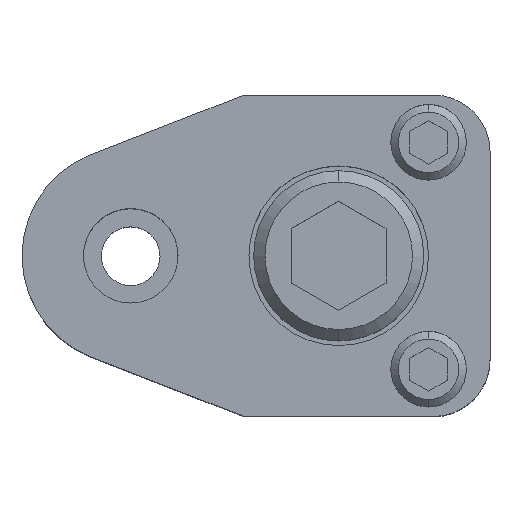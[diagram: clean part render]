
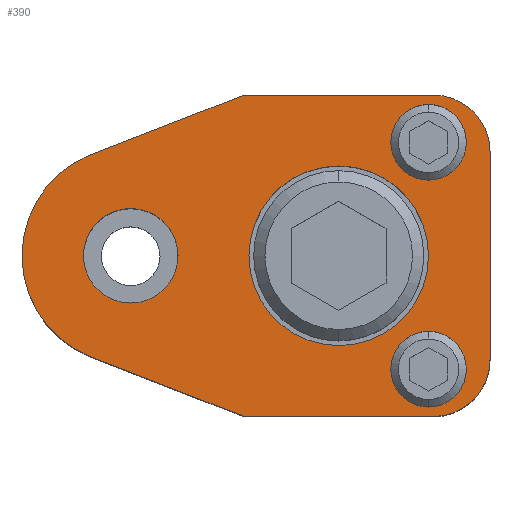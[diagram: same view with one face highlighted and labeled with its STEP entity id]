
A CAD part, top view. The second image highlights one B-rep face of the part: STEP entity #390.
In plain terms, the highlighted planar face has unit normal (0, 0, 1).
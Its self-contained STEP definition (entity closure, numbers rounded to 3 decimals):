
#192=FACE_BOUND('',#693,.T.);
#193=FACE_BOUND('',#694,.T.);
#194=FACE_BOUND('',#695,.T.);
#195=FACE_BOUND('',#696,.T.);
#196=FACE_BOUND('',#697,.T.);
#243=CIRCLE('',#2256,6.);
#246=CIRCLE('',#2262,6.);
#251=CIRCLE('',#2270,9.5);
#253=CIRCLE('',#2273,9.5);
#255=CIRCLE('',#2277,11.5);
#256=CIRCLE('',#2278,4.);
#257=CIRCLE('',#2279,4.);
#258=CIRCLE('',#2280,4.);
#259=CIRCLE('',#2281,4.);
#260=CIRCLE('',#2282,5.);
#261=CIRCLE('',#2283,5.);
#390=ADVANCED_FACE('',(#192,#193,#194,#195,#196),#501,.T.);
#501=PLANE('',#2284);
#693=EDGE_LOOP('',(#973,#974,#975,#976,#977,#978,#979,#980));
#694=EDGE_LOOP('',(#981,#982));
#695=EDGE_LOOP('',(#983,#984));
#696=EDGE_LOOP('',(#985,#986));
#697=EDGE_LOOP('',(#987,#988));
#973=ORIENTED_EDGE('',*,*,#1647,.T.);
#974=ORIENTED_EDGE('',*,*,#1651,.T.);
#975=ORIENTED_EDGE('',*,*,#1654,.T.);
#976=ORIENTED_EDGE('',*,*,#1674,.T.);
#977=ORIENTED_EDGE('',*,*,#1675,.T.);
#978=ORIENTED_EDGE('',*,*,#1676,.T.);
#979=ORIENTED_EDGE('',*,*,#1657,.T.);
#980=ORIENTED_EDGE('',*,*,#1661,.T.);
#981=ORIENTED_EDGE('',*,*,#1677,.F.);
#982=ORIENTED_EDGE('',*,*,#1678,.F.);
#983=ORIENTED_EDGE('',*,*,#1679,.F.);
#984=ORIENTED_EDGE('',*,*,#1680,.F.);
#985=ORIENTED_EDGE('',*,*,#1672,.F.);
#986=ORIENTED_EDGE('',*,*,#1668,.F.);
#987=ORIENTED_EDGE('',*,*,#1681,.T.);
#988=ORIENTED_EDGE('',*,*,#1682,.T.);
#1434=VERTEX_POINT('',#3270);
#1435=VERTEX_POINT('',#3272);
#1438=VERTEX_POINT('',#3279);
#1440=VERTEX_POINT('',#3285);
#1442=VERTEX_POINT('',#3291);
#1443=VERTEX_POINT('',#3293);
#1449=VERTEX_POINT('',#3314);
#1450=VERTEX_POINT('',#3315);
#1453=VERTEX_POINT('',#3327);
#1454=VERTEX_POINT('',#3329);
#1455=VERTEX_POINT('',#3332);
#1456=VERTEX_POINT('',#3333);
#1457=VERTEX_POINT('',#3336);
#1458=VERTEX_POINT('',#3337);
#1459=VERTEX_POINT('',#3340);
#1460=VERTEX_POINT('',#3341);
#1647=EDGE_CURVE('',#1435,#1434,#1925,.T.);
#1651=EDGE_CURVE('',#1434,#1438,#243,.T.);
#1654=EDGE_CURVE('',#1438,#1440,#1930,.T.);
#1657=EDGE_CURVE('',#1443,#1442,#1933,.T.);
#1661=EDGE_CURVE('',#1442,#1435,#246,.T.);
#1668=EDGE_CURVE('',#1449,#1450,#251,.T.);
#1672=EDGE_CURVE('',#1450,#1449,#253,.T.);
#1674=EDGE_CURVE('',#1440,#1453,#1940,.T.);
#1675=EDGE_CURVE('',#1453,#1454,#255,.T.);
#1676=EDGE_CURVE('',#1454,#1443,#1941,.T.);
#1677=EDGE_CURVE('',#1455,#1456,#256,.T.);
#1678=EDGE_CURVE('',#1456,#1455,#257,.T.);
#1679=EDGE_CURVE('',#1457,#1458,#258,.T.);
#1680=EDGE_CURVE('',#1458,#1457,#259,.T.);
#1681=EDGE_CURVE('',#1459,#1460,#260,.T.);
#1682=EDGE_CURVE('',#1460,#1459,#261,.T.);
#1925=LINE('',#3271,#2091);
#1930=LINE('',#3286,#2096);
#1933=LINE('',#3292,#2099);
#1940=LINE('',#3326,#2106);
#1941=LINE('',#3330,#2107);
#2091=VECTOR('',#2604,1.);
#2096=VECTOR('',#2617,1.);
#2099=VECTOR('',#2622,1.);
#2106=VECTOR('',#2663,1.);
#2107=VECTOR('',#2666,1.);
#2256=AXIS2_PLACEMENT_3D('',#3280,#2610,#2611);
#2262=AXIS2_PLACEMENT_3D('',#3299,#2629,#2630);
#2270=AXIS2_PLACEMENT_3D('',#3313,#2647,#2648);
#2273=AXIS2_PLACEMENT_3D('',#3322,#2655,#2656);
#2277=AXIS2_PLACEMENT_3D('',#3328,#2664,#2665);
#2278=AXIS2_PLACEMENT_3D('',#3331,#2667,#2668);
#2279=AXIS2_PLACEMENT_3D('',#3334,#2669,#2670);
#2280=AXIS2_PLACEMENT_3D('',#3335,#2671,#2672);
#2281=AXIS2_PLACEMENT_3D('',#3338,#2673,#2674);
#2282=AXIS2_PLACEMENT_3D('',#3339,#2675,#2676);
#2283=AXIS2_PLACEMENT_3D('',#3342,#2677,#2678);
#2284=AXIS2_PLACEMENT_3D('',#3343,#2679,#2680);
#2604=DIRECTION('',(0.,1.,0.));
#2610=DIRECTION('',(0.,0.,1.));
#2611=DIRECTION('',(-0.707,-0.707,0.));
#2617=DIRECTION('',(-1.,0.,0.));
#2622=DIRECTION('',(1.,0.,0.));
#2629=DIRECTION('',(0.,0.,1.));
#2630=DIRECTION('',(-0.707,0.707,0.));
#2647=DIRECTION('',(0.,0.,1.));
#2648=DIRECTION('',(-1.,0.,0.));
#2655=DIRECTION('',(0.,0.,1.));
#2656=DIRECTION('',(1.,0.,0.));
#2663=DIRECTION('',(-0.932,-0.362,0.));
#2664=DIRECTION('',(0.,0.,1.));
#2665=DIRECTION('',(0.,1.,0.));
#2666=DIRECTION('',(0.932,-0.362,0.));
#2667=DIRECTION('',(0.,0.,1.));
#2668=DIRECTION('',(-1.,0.,0.));
#2669=DIRECTION('',(0.,0.,1.));
#2670=DIRECTION('',(1.,0.,0.));
#2671=DIRECTION('',(0.,0.,1.));
#2672=DIRECTION('',(-1.,0.,0.));
#2673=DIRECTION('',(0.,0.,1.));
#2674=DIRECTION('',(1.,0.,0.));
#2675=DIRECTION('',(0.,0.,-1.));
#2676=DIRECTION('',(-1.,0.,0.));
#2677=DIRECTION('',(0.,0.,-1.));
#2678=DIRECTION('',(1.,0.,0.));
#2679=DIRECTION('',(0.,0.,1.));
#2680=DIRECTION('',(0.,-1.,0.));
#3270=CARTESIAN_POINT('',(38.,11.,30.));
#3271=CARTESIAN_POINT('',(38.,-11.,30.));
#3272=CARTESIAN_POINT('',(38.,-11.,30.));
#3279=CARTESIAN_POINT('',(32.,17.,30.));
#3280=CARTESIAN_POINT('',(32.,11.,30.));
#3285=CARTESIAN_POINT('',(12.,17.,30.));
#3286=CARTESIAN_POINT('',(12.,17.,30.));
#3291=CARTESIAN_POINT('',(32.,-17.,30.));
#3292=CARTESIAN_POINT('',(12.,-17.,30.));
#3293=CARTESIAN_POINT('',(12.,-17.,30.));
#3299=CARTESIAN_POINT('',(32.,-11.,30.));
#3313=CARTESIAN_POINT('',(22.,0.,30.));
#3314=CARTESIAN_POINT('',(22.,-9.5,30.));
#3315=CARTESIAN_POINT('',(22.,9.5,30.));
#3322=CARTESIAN_POINT('',(22.,0.,30.));
#3326=CARTESIAN_POINT('',(12.,17.,30.));
#3327=CARTESIAN_POINT('',(-4.165,10.719,30.));
#3328=CARTESIAN_POINT('',(0.,0.,30.));
#3329=CARTESIAN_POINT('',(-4.165,-10.719,30.));
#3330=CARTESIAN_POINT('',(12.,-17.,30.));
#3331=CARTESIAN_POINT('',(31.5,-12.,30.));
#3332=CARTESIAN_POINT('',(31.5,-16.,30.));
#3333=CARTESIAN_POINT('',(31.5,-8.,30.));
#3334=CARTESIAN_POINT('',(31.5,-12.,30.));
#3335=CARTESIAN_POINT('',(31.5,12.,30.));
#3336=CARTESIAN_POINT('',(31.5,8.,30.));
#3337=CARTESIAN_POINT('',(31.5,16.,30.));
#3338=CARTESIAN_POINT('',(31.5,12.,30.));
#3339=CARTESIAN_POINT('',(0.,0.,30.));
#3340=CARTESIAN_POINT('',(0.,5.,30.));
#3341=CARTESIAN_POINT('',(0.,-5.,30.));
#3342=CARTESIAN_POINT('',(0.,0.,30.));
#3343=CARTESIAN_POINT('',(38.,-11.,30.));
